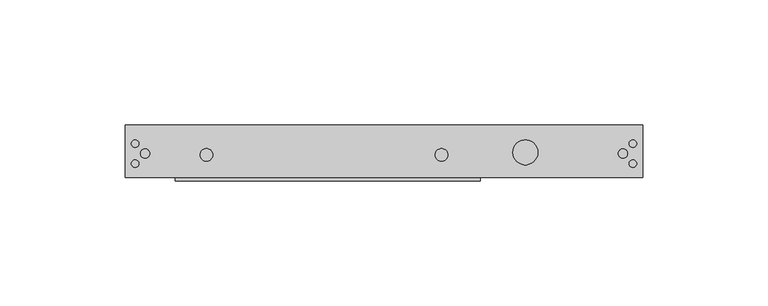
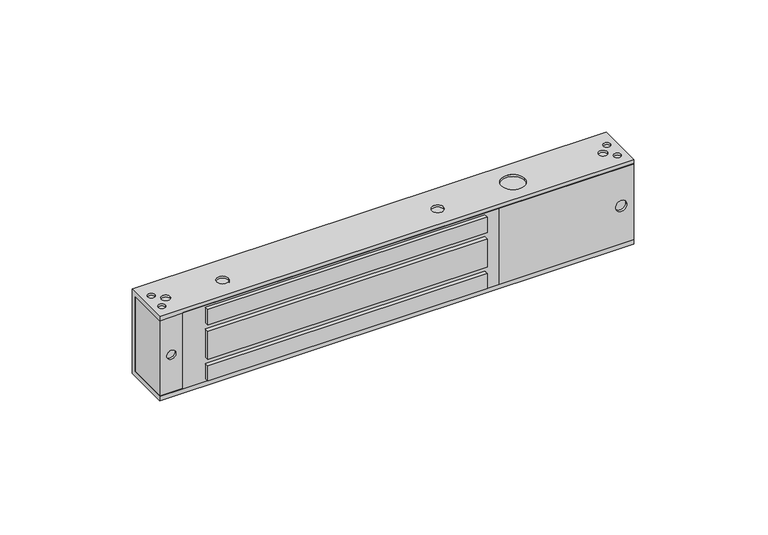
"""IFC4 building model written with IfcOpenShell, lengths in millimetres: proxy geometry, Электромагнитный_замок_ML-180ASN_с_герконом_AccordTec_R19 : Электромагнитный_замок_ML-180ASN_с_герконом_AccordTec_R19."""

from ifc_helpers import new_model, si_unit, point, frame, frame_2d, origin, place, context, project, spatial, polyline, circle_curve, trimmed, segment, composite_curve, outline, extrude, source, transform, mapped, element, save
from ifc_brep_helpers import plane_surface, revolved_surface, advanced_brep


def generic_models_bdc86e0f(model_context):
    return source(origin(), model_context, "Body", "SolidModel", [
        extrude(outline(polyline([(142.0, -1.5), (20.0, -1.5), (20.0, 1.0), (142.0, 1.0), (142.0, -1.5)])), frame((0.0, 0.0, 29.0), z_axis=(0.0, 0.0, 1.0), x_axis=(1.0, 0.0, 0.0)), (0.0, 0.0, 1.0), 7.0),
        extrude(outline(polyline([(142.0, -1.5), (20.0, -1.5), (20.0, 1.0), (142.0, 1.0), (142.0, -1.5)])), frame((0.0, 0.0, 13.0), z_axis=(0.0, 0.0, 1.0), x_axis=(1.0, 0.0, 0.0)), (0.0, 0.0, 1.0), 13.0),
        extrude(outline(polyline([(142.0, -1.5), (20.0, -1.5), (20.0, 1.0), (142.0, 1.0), (142.0, -1.5)])), frame((0.0, 0.0, 3.0), z_axis=(0.0, 0.0, 1.0), x_axis=(1.0, 0.0, 0.0)), (0.0, 0.0, 1.0), 7.0),
        extrude(outline(polyline([(37.0, 148.0), (37.0, 10.0), (2.0, 10.0), (2.0, 148.0), (37.0, 148.0)]), holes=[polyline([(36.0, 20.0), (36.0, 142.0), (29.0, 142.0), (29.0, 20.0), (36.0, 20.0)]), polyline([(26.0, 20.0), (26.0, 142.0), (13.0, 142.0), (13.0, 20.0), (26.0, 20.0)]), polyline([(10.0, 20.0), (10.0, 142.0), (3.0, 142.0), (3.0, 20.0), (10.0, 20.0)])]), frame((0.0, 0.0, 0.0), z_axis=(0.0, 1.0, 0.0), x_axis=(0.0, 0.0, 1.0)), (0.0, 0.0, 1.0), 1.0),
        extrude(outline(polyline([(37.0, 207.0), (37.0, 148.0), (2.0, 148.0), (2.0, 207.0), (37.0, 207.0)]), holes=[composite_curve([segment(trimmed(circle_curve(frame_2d((19.5, 201.5)), 2.5), [point((19.5, 204.0))], [point((19.5, 199.0))], True, "CARTESIAN"), True, "CONTINUOUS"), segment(trimmed(circle_curve(frame_2d((19.5, 201.5)), 2.5), [point((19.5, 199.0))], [point((19.5, 204.0))], True, "CARTESIAN"), True, "CONTINUOUS")], self_intersect=False)]), frame((0.0, 0.0, 0.0), z_axis=(0.0, 1.0, 0.0), x_axis=(0.0, 0.0, 1.0)), (0.0, 0.0, 1.0), 1.0),
        advanced_brep(
        [(207.0, 19.0, 37.0), (207.0, 19.0, 2.0), (207.0, 1.0, 2.0), (207.0, 0.0, 2.0), (207.0, 0.0, 0.0), (207.0, 21.0, 0.0), (207.0, 21.0, 39.0), (207.0, 0.0, 39.0), (207.0, 0.0, 37.0), (207.0, 1.0, 37.0), (0.0, 0.0, 37.0), (0.0, 0.0, 39.0), (0.0, 21.0, 39.0), (0.0, 21.0, 0.0), (0.0, 0.0, 0.0), (0.0, 0.0, 2.0), (0.0, 19.0, 2.0), (0.0, 19.0, 37.0), (148.0, 0.0, 37.0), (10.0, 0.0, 37.0), (10.0, 0.0, 2.0), (148.0, 0.0, 2.0), (2.5, 13.5, 0.0), (5.5, 13.5, 0.0), (6.14, 9.5, 0.0), (9.86, 9.5, 0.0), (2.5, 5.5, 0.0), (5.5, 5.5, 0.0), (30.0, 9.0, 0.0), (35.0, 9.0, 0.0), (124.0, 9.0, 0.0), (129.0, 9.0, 0.0), (180.0, 10.0, 0.0), (188.0, 10.0, 0.0), (197.14, 9.5, 0.0), (200.86, 9.5, 0.0), (201.5, 13.5, 0.0), (204.5, 13.5, 0.0), (201.5, 5.5, 0.0), (204.5, 5.5, 0.0), (2.5, 13.5, 39.0), (5.5, 13.5, 39.0), (6.14, 9.5, 39.0), (9.86, 9.5, 39.0), (2.5, 5.5, 39.0), (5.5, 5.5, 39.0), (30.0, 9.0, 39.0), (35.0, 9.0, 39.0), (124.0, 9.0, 39.0), (129.0, 9.0, 39.0), (155.0, 10.0, 39.0), (165.0, 10.0, 39.0), (201.5, 13.5, 39.0), (204.5, 13.5, 39.0), (197.14, 9.5, 39.0), (200.86, 9.5, 39.0), (201.5, 5.5, 39.0), (204.5, 5.5, 39.0), (2.5, 13.5, 1.0), (5.5, 13.5, 1.0), (6.14, 9.5, 1.0), (9.86, 9.5, 1.0), (2.5, 5.5, 1.0), (5.5, 5.5, 1.0), (30.0, 9.0, 1.0), (35.0, 9.0, 1.0), (124.0, 9.0, 1.0), (129.0, 9.0, 1.0), (180.0, 10.0, 1.0), (188.0, 10.0, 1.0), (197.14, 9.5, 1.0), (200.86, 9.5, 1.0), (201.5, 13.5, 1.0), (204.5, 13.5, 1.0), (201.5, 5.5, 1.0), (204.5, 5.5, 1.0), (2.5, 13.5, 38.0), (5.5, 13.5, 38.0), (6.14, 9.5, 38.0), (9.86, 9.5, 38.0), (2.5, 5.5, 38.0), (5.5, 5.5, 38.0), (30.0, 9.0, 38.0), (35.0, 9.0, 38.0), (124.0, 9.0, 38.0), (129.0, 9.0, 38.0), (155.0, 10.0, 38.0), (165.0, 10.0, 38.0), (201.5, 13.5, 38.0), (204.5, 13.5, 38.0), (197.14, 9.5, 38.0), (200.86, 9.5, 38.0), (201.5, 5.5, 38.0), (204.5, 5.5, 38.0)],
        [
            (0, 1),
            (1, 2),
            (2, 3),
            (3, 4),
            (4, 5),
            (5, 6),
            (6, 7),
            (7, 8),
            (8, 9),
            (9, 0),
            (10, 11),
            (11, 12),
            (12, 13),
            (13, 14),
            (14, 15),
            (15, 16),
            (16, 17),
            (17, 10),
            (17, 0),
            (8, 18),
            (18, 19),
            (19, 10),
            (16, 1),
            (15, 20),
            (20, 21),
            (21, 3),
            (14, 4),
            (13, 5),
            (22, 23, circle_curve(frame((4.0, 13.5, 0.0), z_axis=(0.0, 0.0, 1.0), x_axis=(1.0, 0.0, 0.0)), 1.5)),
            (23, 22, circle_curve(frame((4.0, 13.5, 0.0), z_axis=(0.0, 0.0, 1.0), x_axis=(1.0, 0.0, 0.0)), 1.5)),
            (24, 25, circle_curve(frame((8.0, 9.5, 0.0), z_axis=(0.0, 0.0, 1.0), x_axis=(1.0, 0.0, 0.0)), 1.86)),
            (25, 24, circle_curve(frame((8.0, 9.5, 0.0), z_axis=(0.0, 0.0, 1.0), x_axis=(1.0, 0.0, 0.0)), 1.86)),
            (26, 27, circle_curve(frame((4.0, 5.5, 0.0), z_axis=(0.0, 0.0, 1.0), x_axis=(1.0, 0.0, 0.0)), 1.5)),
            (27, 26, circle_curve(frame((4.0, 5.5, 0.0), z_axis=(0.0, 0.0, 1.0), x_axis=(1.0, 0.0, 0.0)), 1.5)),
            (28, 29, circle_curve(frame((32.5, 9.0, 0.0), z_axis=(0.0, 0.0, 1.0), x_axis=(1.0, 0.0, 0.0)), 2.5)),
            (29, 28, circle_curve(frame((32.5, 9.0, 0.0), z_axis=(0.0, 0.0, 1.0), x_axis=(1.0, 0.0, 0.0)), 2.5)),
            (30, 31, circle_curve(frame((126.5, 9.0, 0.0), z_axis=(0.0, 0.0, 1.0), x_axis=(1.0, 0.0, 0.0)), 2.5)),
            (31, 30, circle_curve(frame((126.5, 9.0, 0.0), z_axis=(0.0, 0.0, 1.0), x_axis=(1.0, 0.0, 0.0)), 2.5)),
            (32, 33, circle_curve(frame((184.0, 10.0, 0.0), z_axis=(0.0, 0.0, 1.0), x_axis=(1.0, 0.0, 0.0)), 4.0)),
            (33, 32, circle_curve(frame((184.0, 10.0, 0.0), z_axis=(0.0, 0.0, 1.0), x_axis=(1.0, 0.0, 0.0)), 4.0)),
            (34, 35, circle_curve(frame((199.0, 9.5, 0.0), z_axis=(0.0, 0.0, 1.0), x_axis=(1.0, 0.0, 0.0)), 1.86)),
            (35, 34, circle_curve(frame((199.0, 9.5, 0.0), z_axis=(0.0, 0.0, 1.0), x_axis=(1.0, 0.0, 0.0)), 1.86)),
            (36, 37, circle_curve(frame((203.0, 13.5, 0.0), z_axis=(0.0, 0.0, 1.0), x_axis=(1.0, 0.0, 0.0)), 1.5)),
            (37, 36, circle_curve(frame((203.0, 13.5, 0.0), z_axis=(0.0, 0.0, 1.0), x_axis=(1.0, 0.0, 0.0)), 1.5)),
            (38, 39, circle_curve(frame((203.0, 5.5, 0.0), z_axis=(0.0, 0.0, 1.0), x_axis=(1.0, 0.0, 0.0)), 1.5)),
            (39, 38, circle_curve(frame((203.0, 5.5, 0.0), z_axis=(0.0, 0.0, 1.0), x_axis=(1.0, 0.0, 0.0)), 1.5)),
            (12, 6),
            (11, 7),
            (40, 41, circle_curve(frame((4.0, 13.5, 39.0), z_axis=(0.0, 0.0, -1.0), x_axis=(1.0, 0.0, 0.0)), 1.5)),
            (41, 40, circle_curve(frame((4.0, 13.5, 39.0), z_axis=(0.0, 0.0, -1.0), x_axis=(1.0, 0.0, 0.0)), 1.5)),
            (42, 43, circle_curve(frame((8.0, 9.5, 39.0), z_axis=(0.0, 0.0, -1.0), x_axis=(1.0, 0.0, 0.0)), 1.86)),
            (43, 42, circle_curve(frame((8.0, 9.5, 39.0), z_axis=(0.0, 0.0, -1.0), x_axis=(1.0, 0.0, 0.0)), 1.86)),
            (44, 45, circle_curve(frame((4.0, 5.5, 39.0), z_axis=(0.0, 0.0, -1.0), x_axis=(1.0, 0.0, 0.0)), 1.5)),
            (45, 44, circle_curve(frame((4.0, 5.5, 39.0), z_axis=(0.0, 0.0, -1.0), x_axis=(1.0, 0.0, 0.0)), 1.5)),
            (46, 47, circle_curve(frame((32.5, 9.0, 39.0), z_axis=(0.0, 0.0, -1.0), x_axis=(1.0, 0.0, 0.0)), 2.5)),
            (47, 46, circle_curve(frame((32.5, 9.0, 39.0), z_axis=(0.0, 0.0, -1.0), x_axis=(1.0, 0.0, 0.0)), 2.5)),
            (48, 49, circle_curve(frame((126.5, 9.0, 39.0), z_axis=(0.0, 0.0, -1.0), x_axis=(1.0, 0.0, 0.0)), 2.5)),
            (49, 48, circle_curve(frame((126.5, 9.0, 39.0), z_axis=(0.0, 0.0, -1.0), x_axis=(1.0, 0.0, 0.0)), 2.5)),
            (50, 51, circle_curve(frame((160.0, 10.0, 39.0), z_axis=(0.0, 0.0, -1.0), x_axis=(1.0, 0.0, 0.0)), 5.0)),
            (51, 50, circle_curve(frame((160.0, 10.0, 39.0), z_axis=(0.0, 0.0, -1.0), x_axis=(1.0, 0.0, 0.0)), 5.0)),
            (52, 53, circle_curve(frame((203.0, 13.5, 39.0), z_axis=(0.0, 0.0, -1.0), x_axis=(1.0, 0.0, 0.0)), 1.5)),
            (53, 52, circle_curve(frame((203.0, 13.5, 39.0), z_axis=(0.0, 0.0, -1.0), x_axis=(1.0, 0.0, 0.0)), 1.5)),
            (54, 55, circle_curve(frame((199.0, 9.5, 39.0), z_axis=(0.0, 0.0, -1.0), x_axis=(1.0, 0.0, 0.0)), 1.86)),
            (55, 54, circle_curve(frame((199.0, 9.5, 39.0), z_axis=(0.0, 0.0, -1.0), x_axis=(1.0, 0.0, 0.0)), 1.86)),
            (56, 57, circle_curve(frame((203.0, 5.5, 39.0), z_axis=(0.0, 0.0, -1.0), x_axis=(1.0, 0.0, 0.0)), 1.5)),
            (57, 56, circle_curve(frame((203.0, 5.5, 39.0), z_axis=(0.0, 0.0, -1.0), x_axis=(1.0, 0.0, 0.0)), 1.5)),
            (58, 59, circle_curve(frame((4.0, 13.5, 1.0), z_axis=(0.0, 0.0, -1.0), x_axis=(1.0, 0.0, 0.0)), 1.5)),
            (59, 58, circle_curve(frame((4.0, 13.5, 1.0), z_axis=(0.0, 0.0, -1.0), x_axis=(1.0, 0.0, 0.0)), 1.5)),
            (60, 61, circle_curve(frame((8.0, 9.5, 1.0), z_axis=(0.0, 0.0, -1.0), x_axis=(1.0, 0.0, 0.0)), 1.86)),
            (61, 60, circle_curve(frame((8.0, 9.5, 1.0), z_axis=(0.0, 0.0, -1.0), x_axis=(1.0, 0.0, 0.0)), 1.86)),
            (62, 63, circle_curve(frame((4.0, 5.5, 1.0), z_axis=(0.0, 0.0, -1.0), x_axis=(1.0, 0.0, 0.0)), 1.5)),
            (63, 62, circle_curve(frame((4.0, 5.5, 1.0), z_axis=(0.0, 0.0, -1.0), x_axis=(1.0, 0.0, 0.0)), 1.5)),
            (64, 65, circle_curve(frame((32.5, 9.0, 1.0), z_axis=(0.0, 0.0, -1.0), x_axis=(1.0, 0.0, 0.0)), 2.5)),
            (65, 64, circle_curve(frame((32.5, 9.0, 1.0), z_axis=(0.0, 0.0, -1.0), x_axis=(1.0, 0.0, 0.0)), 2.5)),
            (66, 67, circle_curve(frame((126.5, 9.0, 1.0), z_axis=(0.0, 0.0, -1.0), x_axis=(1.0, 0.0, 0.0)), 2.5)),
            (67, 66, circle_curve(frame((126.5, 9.0, 1.0), z_axis=(0.0, 0.0, -1.0), x_axis=(1.0, 0.0, 0.0)), 2.5)),
            (68, 69, circle_curve(frame((184.0, 10.0, 1.0), z_axis=(0.0, 0.0, -1.0), x_axis=(1.0, 0.0, 0.0)), 4.0)),
            (69, 68, circle_curve(frame((184.0, 10.0, 1.0), z_axis=(0.0, 0.0, -1.0), x_axis=(1.0, 0.0, 0.0)), 4.0)),
            (70, 71, circle_curve(frame((199.0, 9.5, 1.0), z_axis=(0.0, 0.0, -1.0), x_axis=(1.0, 0.0, 0.0)), 1.86)),
            (71, 70, circle_curve(frame((199.0, 9.5, 1.0), z_axis=(0.0, 0.0, -1.0), x_axis=(1.0, 0.0, 0.0)), 1.86)),
            (72, 73, circle_curve(frame((203.0, 13.5, 1.0), z_axis=(0.0, 0.0, -1.0), x_axis=(1.0, 0.0, 0.0)), 1.5)),
            (73, 72, circle_curve(frame((203.0, 13.5, 1.0), z_axis=(0.0, 0.0, -1.0), x_axis=(1.0, 0.0, 0.0)), 1.5)),
            (74, 75, circle_curve(frame((203.0, 5.5, 1.0), z_axis=(0.0, 0.0, -1.0), x_axis=(1.0, 0.0, 0.0)), 1.5)),
            (75, 74, circle_curve(frame((203.0, 5.5, 1.0), z_axis=(0.0, 0.0, -1.0), x_axis=(1.0, 0.0, 0.0)), 1.5)),
            (59, 23),
            (22, 58),
            (61, 25),
            (24, 60),
            (63, 27),
            (26, 62),
            (65, 29),
            (28, 64),
            (67, 31),
            (30, 66),
            (69, 33),
            (32, 68),
            (71, 35),
            (34, 70),
            (73, 37),
            (36, 72),
            (75, 39),
            (38, 74),
            (76, 77, circle_curve(frame((4.0, 13.5, 38.0), z_axis=(0.0, 0.0, 1.0), x_axis=(1.0, 0.0, 0.0)), 1.5)),
            (77, 76, circle_curve(frame((4.0, 13.5, 38.0), z_axis=(0.0, 0.0, 1.0), x_axis=(1.0, 0.0, 0.0)), 1.5)),
            (78, 79, circle_curve(frame((8.0, 9.5, 38.0), z_axis=(0.0, 0.0, 1.0), x_axis=(1.0, 0.0, 0.0)), 1.86)),
            (79, 78, circle_curve(frame((8.0, 9.5, 38.0), z_axis=(0.0, 0.0, 1.0), x_axis=(1.0, 0.0, 0.0)), 1.86)),
            (80, 81, circle_curve(frame((4.0, 5.5, 38.0), z_axis=(0.0, 0.0, 1.0), x_axis=(1.0, 0.0, 0.0)), 1.5)),
            (81, 80, circle_curve(frame((4.0, 5.5, 38.0), z_axis=(0.0, 0.0, 1.0), x_axis=(1.0, 0.0, 0.0)), 1.5)),
            (82, 83, circle_curve(frame((32.5, 9.0, 38.0), z_axis=(0.0, 0.0, 1.0), x_axis=(1.0, 0.0, 0.0)), 2.5)),
            (83, 82, circle_curve(frame((32.5, 9.0, 38.0), z_axis=(0.0, 0.0, 1.0), x_axis=(1.0, 0.0, 0.0)), 2.5)),
            (84, 85, circle_curve(frame((126.5, 9.0, 38.0), z_axis=(0.0, 0.0, 1.0), x_axis=(1.0, 0.0, 0.0)), 2.5)),
            (85, 84, circle_curve(frame((126.5, 9.0, 38.0), z_axis=(0.0, 0.0, 1.0), x_axis=(1.0, 0.0, 0.0)), 2.5)),
            (86, 87, circle_curve(frame((160.0, 10.0, 38.0), z_axis=(0.0, 0.0, 1.0), x_axis=(1.0, 0.0, 0.0)), 5.0)),
            (87, 86, circle_curve(frame((160.0, 10.0, 38.0), z_axis=(0.0, 0.0, 1.0), x_axis=(1.0, 0.0, 0.0)), 5.0)),
            (88, 89, circle_curve(frame((203.0, 13.5, 38.0), z_axis=(0.0, 0.0, 1.0), x_axis=(1.0, 0.0, 0.0)), 1.5)),
            (89, 88, circle_curve(frame((203.0, 13.5, 38.0), z_axis=(0.0, 0.0, 1.0), x_axis=(1.0, 0.0, 0.0)), 1.5)),
            (90, 91, circle_curve(frame((199.0, 9.5, 38.0), z_axis=(0.0, 0.0, 1.0), x_axis=(1.0, 0.0, 0.0)), 1.86)),
            (91, 90, circle_curve(frame((199.0, 9.5, 38.0), z_axis=(0.0, 0.0, 1.0), x_axis=(1.0, 0.0, 0.0)), 1.86)),
            (92, 93, circle_curve(frame((203.0, 5.5, 38.0), z_axis=(0.0, 0.0, 1.0), x_axis=(1.0, 0.0, 0.0)), 1.5)),
            (93, 92, circle_curve(frame((203.0, 5.5, 38.0), z_axis=(0.0, 0.0, 1.0), x_axis=(1.0, 0.0, 0.0)), 1.5)),
            (77, 41),
            (40, 76),
            (79, 43),
            (42, 78),
            (81, 45),
            (44, 80),
            (83, 47),
            (46, 82),
            (85, 49),
            (48, 84),
            (87, 51),
            (50, 86),
            (89, 53),
            (52, 88),
            (91, 55),
            (54, 90),
            (93, 57),
            (56, 92),
        ],
        [
            plane_surface(frame((207.0, 0.0, 37.0), z_axis=(1.0, 0.0, 0.0), x_axis=(0.0, 1.0, 0.0))),
            plane_surface(frame((0.0, 0.0, 37.0), z_axis=(-1.0, 0.0, 0.0), x_axis=(0.0, -1.0, 0.0))),
            plane_surface(frame((207.0, 0.0, 37.0), z_axis=(0.0, 0.0, -1.0), x_axis=(-1.0, 0.0, 0.0))),
            plane_surface(frame((207.0, 19.0, 37.0), z_axis=(0.0, -1.0, 0.0), x_axis=(-1.0, 0.0, 0.0))),
            plane_surface(frame((207.0, 19.0, 2.0), z_axis=(0.0, 0.0, 1.0), x_axis=(-1.0, 0.0, 0.0))),
            plane_surface(frame((207.0, 0.0, 2.0), z_axis=(0.0, -1.0, 0.0), x_axis=(-1.0, 0.0, 0.0))),
            plane_surface(frame((207.0, 0.0, 0.0), z_axis=(0.0, 0.0, -1.0), x_axis=(-1.0, 0.0, 0.0))),
            plane_surface(frame((207.0, 21.0, 0.0), z_axis=(0.0, 1.0, 0.0), x_axis=(-1.0, 0.0, 0.0))),
            plane_surface(frame((207.0, 21.0, 39.0), z_axis=(0.0, 0.0, 1.0), x_axis=(-1.0, 0.0, 0.0))),
            plane_surface(frame((207.0, 0.0, 39.0), z_axis=(0.0, -1.0, 0.0), x_axis=(-1.0, 0.0, 0.0))),
            plane_surface(frame((5.5, 13.5, 1.0), z_axis=(0.0, 0.0, -1.0), x_axis=(0.0, 1.0, 0.0))),
            revolved_surface(polyline([(5.5, 13.5, 1.0), (5.5, 13.5, 0.0)]), (4.0, 13.5, -1.0), (0.0, 0.0, 1.0)),
            revolved_surface(polyline([(9.86, 9.5, 1.0), (9.86, 9.5, 0.0)]), (8.0, 9.5, 0.0), (0.0, 0.0, 1.0)),
            revolved_surface(polyline([(5.5, 5.5, 1.0), (5.5, 5.5, 0.0)]), (4.0, 5.5, 0.0), (0.0, 0.0, 1.0)),
            revolved_surface(polyline([(35.0, 9.0, 1.0), (35.0, 9.0, 0.0)]), (32.5, 9.0, 0.0), (0.0, 0.0, 1.0)),
            revolved_surface(polyline([(129.0, 9.0, 1.0), (129.0, 9.0, 0.0)]), (126.5, 9.0, 0.0), (0.0, 0.0, 1.0)),
            revolved_surface(polyline([(188.0, 10.0, 1.0), (188.0, 10.0, 0.0)]), (184.0, 10.0, 0.0), (0.0, 0.0, 1.0)),
            revolved_surface(polyline([(200.86, 9.5, 1.0), (200.86, 9.5, 0.0)]), (199.0, 9.5, 0.0), (0.0, 0.0, 1.0)),
            revolved_surface(polyline([(204.5, 13.5, 1.0), (204.5, 13.5, 0.0)]), (203.0, 13.5, 0.0), (0.0, 0.0, 1.0)),
            revolved_surface(polyline([(204.5, 5.5, 1.0), (204.5, 5.5, 0.0)]), (203.0, 5.5, 0.0), (0.0, 0.0, 1.0)),
            plane_surface(frame((5.5, 13.5, 38.0), z_axis=(0.0, 0.0, 1.0), x_axis=(0.0, -1.0, 0.0))),
            revolved_surface(polyline([(5.5, 13.5, 38.0), (5.5, 13.5, 39.0)]), (4.0, 13.5, 40.0), (0.0, 0.0, -1.0)),
            revolved_surface(polyline([(9.86, 9.5, 38.0), (9.86, 9.5, 39.0)]), (8.0, 9.5, 39.0), (0.0, 0.0, -1.0)),
            revolved_surface(polyline([(5.5, 5.5, 38.0), (5.5, 5.5, 39.0)]), (4.0, 5.5, 39.0), (0.0, 0.0, -1.0)),
            revolved_surface(polyline([(35.0, 9.0, 38.0), (35.0, 9.0, 39.0)]), (32.5, 9.0, 39.0), (0.0, 0.0, -1.0)),
            revolved_surface(polyline([(129.0, 9.0, 38.0), (129.0, 9.0, 39.0)]), (126.5, 9.0, 39.0), (0.0, 0.0, -1.0)),
            revolved_surface(polyline([(165.0, 10.0, 38.0), (165.0, 10.0, 39.0)]), (160.0, 10.0, 39.0), (0.0, 0.0, -1.0)),
            revolved_surface(polyline([(204.5, 13.5, 38.0), (204.5, 13.5, 39.0)]), (203.0, 13.5, 39.0), (0.0, 0.0, -1.0)),
            revolved_surface(polyline([(200.86, 9.5, 38.0), (200.86, 9.5, 39.0)]), (199.0, 9.5, 39.0), (0.0, 0.0, -1.0)),
            revolved_surface(polyline([(204.5, 5.5, 38.0), (204.5, 5.5, 39.0)]), (203.0, 5.5, 39.0), (0.0, 0.0, -1.0)),
        ],
        [
            (0, [[1, 2, 3, 4, 5, 6, 7, 8, 9, 10]]),
            (1, [[11, 12, 13, 14, 15, 16, 17, 18]]),
            (2, [[-18, 19, -10, -9, 20, 21, 22]]),
            (3, [[-1, -19, -17, 23]]),
            (4, [[-16, 24, 25, 26, -3, -2, -23]]),
            (5, [[-4, -26, -25, -24, -15, 27]]),
            (6, [[-5, -27, -14, 28], [29, 30], [31, 32], [33, 34], [35, 36], [37, 38], [39, 40], [41, 42], [43, 44], [45, 46]]),
            (7, [[-6, -28, -13, 47]]),
            (8, [[-7, -47, -12, 48], [49, 50], [51, 52], [53, 54], [55, 56], [57, 58], [59, 60], [61, 62], [63, 64], [65, 66]]),
            (9, [[-8, -48, -11, -22, -21, -20]]),
            (10, [[67, 68]]),
            (10, [[69, 70]]),
            (10, [[71, 72]]),
            (10, [[73, 74]]),
            (10, [[75, 76]]),
            (10, [[77, 78]]),
            (10, [[79, 80]]),
            (10, [[81, 82]]),
            (10, [[83, 84]]),
            (11, [[-68, 85, -29, 86]]),
            (11, [[-67, -86, -30, -85]]),
            (12, [[-70, 87, -31, 88]]),
            (12, [[-69, -88, -32, -87]]),
            (13, [[-72, 89, -33, 90]]),
            (13, [[-71, -90, -34, -89]]),
            (14, [[-74, 91, -35, 92]]),
            (14, [[-73, -92, -36, -91]]),
            (15, [[-76, 93, -37, 94]]),
            (15, [[-75, -94, -38, -93]]),
            (16, [[-78, 95, -39, 96]]),
            (16, [[-77, -96, -40, -95]]),
            (17, [[-80, 97, -41, 98]]),
            (17, [[-79, -98, -42, -97]]),
            (18, [[-82, 99, -43, 100]]),
            (18, [[-81, -100, -44, -99]]),
            (19, [[-84, 101, -45, 102]]),
            (19, [[-83, -102, -46, -101]]),
            (20, [[103, 104]]),
            (20, [[105, 106]]),
            (20, [[107, 108]]),
            (20, [[109, 110]]),
            (20, [[111, 112]]),
            (20, [[113, 114]]),
            (20, [[115, 116]]),
            (20, [[117, 118]]),
            (20, [[119, 120]]),
            (21, [[-104, 121, -49, 122]]),
            (21, [[-103, -122, -50, -121]]),
            (22, [[-106, 123, -51, 124]]),
            (22, [[-105, -124, -52, -123]]),
            (23, [[-108, 125, -53, 126]]),
            (23, [[-107, -126, -54, -125]]),
            (24, [[-110, 127, -55, 128]]),
            (24, [[-109, -128, -56, -127]]),
            (25, [[-112, 129, -57, 130]]),
            (25, [[-111, -130, -58, -129]]),
            (26, [[-114, 131, -59, 132]]),
            (26, [[-113, -132, -60, -131]]),
            (27, [[-116, 133, -61, 134]]),
            (27, [[-115, -134, -62, -133]]),
            (28, [[-118, 135, -63, 136]]),
            (28, [[-117, -136, -64, -135]]),
            (29, [[-120, 137, -65, 138]]),
            (29, [[-119, -138, -66, -137]]),
        ],
    ),
        advanced_brep(
        [(0.0, 0.0, 2.0), (0.0, 0.0, 37.0), (0.0, 19.0, 37.0), (0.0, 19.0, 2.0), (10.0, 0.0, 2.0), (10.0, 0.0, 37.0), (7.0, 0.0, 19.5), (3.0, 0.0, 19.5), (207.0, 19.0, 2.0), (207.0, 19.0, 37.0), (207.0, 1.0, 37.0), (207.0, 1.0, 2.0), (10.0, 1.0, 37.0), (148.0, 1.0, 37.0), (148.0, 1.0, 2.0), (10.0, 1.0, 2.0), (3.0, 1.0, 19.5), (7.0, 1.0, 19.5)],
        [
            (0, 1),
            (1, 2),
            (2, 3),
            (3, 0),
            (0, 4),
            (4, 5),
            (5, 1),
            (6, 7, circle_curve(frame((5.0, 0.0, 19.5), z_axis=(0.0, 1.0, 0.0), x_axis=(1.0, 0.0, 0.0)), 2.0)),
            (7, 6, circle_curve(frame((5.0, 0.0, 19.5), z_axis=(0.0, 1.0, 0.0), x_axis=(1.0, 0.0, 0.0)), 2.0)),
            (8, 9),
            (9, 10),
            (10, 11),
            (11, 8),
            (9, 2),
            (5, 12),
            (12, 13),
            (13, 10),
            (8, 3),
            (11, 14),
            (14, 15),
            (15, 4),
            (12, 15),
            (16, 17, circle_curve(frame((5.0, 1.0, 19.5), z_axis=(0.0, -1.0, 0.0), x_axis=(1.0, 0.0, 0.0)), 2.0)),
            (17, 16, circle_curve(frame((5.0, 1.0, 19.5), z_axis=(0.0, -1.0, 0.0), x_axis=(1.0, 0.0, 0.0)), 2.0)),
            (16, 7),
            (6, 17),
        ],
        [
            plane_surface(frame((0.0, 21.0, 39.0), z_axis=(-1.0, 0.0, 0.0), x_axis=(0.0, 0.0, -1.0))),
            plane_surface(frame((0.0, 0.0, 39.0), z_axis=(0.0, -1.0, 0.0), x_axis=(0.0, 0.0, -1.0))),
            plane_surface(frame((207.0, 0.0, 39.0), z_axis=(1.0, 0.0, 0.0), x_axis=(0.0, 0.0, -1.0))),
            plane_surface(frame((207.0, 0.0, 37.0), z_axis=(0.0, 0.0, 1.0), x_axis=(-1.0, 0.0, 0.0))),
            plane_surface(frame((207.0, 19.0, 37.0), z_axis=(0.0, 1.0, 0.0), x_axis=(-1.0, 0.0, 0.0))),
            plane_surface(frame((207.0, 19.0, 2.0), z_axis=(0.0, 0.0, -1.0), x_axis=(-1.0, 0.0, 0.0))),
            plane_surface(frame((20.0, 1.0, 37.0), z_axis=(0.0, -1.0, 0.0), x_axis=(1.0, 0.0, 0.0))),
            plane_surface(frame((10.0, -1.0, 37.0), z_axis=(1.0, 0.0, 0.0), x_axis=(0.0, 1.0, 0.0))),
            plane_surface(frame((204.0, 1.0, 19.5), z_axis=(0.0, -1.0, 0.0), x_axis=(0.0, 0.0, -1.0))),
            revolved_surface(polyline([(7.0, 0.0, 19.5), (7.0, 1.0, 19.5)]), (5.0, 0.0, 19.5), (0.0, -1.0, 0.0)),
        ],
        [
            (0, [[1, 2, 3, 4]]),
            (1, [[-1, 5, 6, 7], [8, 9]]),
            (2, [[10, 11, 12, 13]]),
            (3, [[14, -2, -7, 15, 16, 17, -11]]),
            (4, [[-14, -10, 18, -3]]),
            (5, [[-18, -13, 19, 20, 21, -5, -4]]),
            (6, [[22, -20, -19, -12, -17, -16]]),
            (7, [[-22, -15, -6, -21]]),
            (8, [[23, 24]]),
            (9, [[-23, 25, -8, 26]]),
            (9, [[-24, -26, -9, -25]]),
        ],
    ),
    ])


if __name__ == "__main__":
    model = new_model("IFC4")
    model_context = context("Model", 3, world=origin())
    ifc_project = project(units=[si_unit("LENGTHUNIT", "METRE", prefix="MILLI")], contexts=[model_context])
    site = spatial("IfcSite", under=ifc_project)
    building = spatial("IfcBuilding", under=site)
    placement = place(None, origin())
    generic_models_shape = generic_models_bdc86e0f(model_context)
    element("IfcBuildingElementProxy", 1, Name="Электромагнитный_замок_ML-180ASN_с_герконом_AccordTec_R19 : Электромагнитный_замок_ML-180ASN_с_герконом_AccordTec_R19", ObjectType="Электромагнитный_замок_ML-180ASN_с_герконом_AccordTec_R19 : Электромагнитный_замок_ML-180ASN_с_герконом_AccordTec_R19", at=placement, inside=building, context=model_context, shape_type="MappedRepresentation", body=[
        mapped(generic_models_shape, transform((0.0, 0.0, 0.0), x_axis=(1.0, 0.0, 0.0), y_axis=(0.0, 1.0, 0.0), z_axis=(0.0, 0.0, 1.0))),
    ])
    save(model, "model.ifc")
